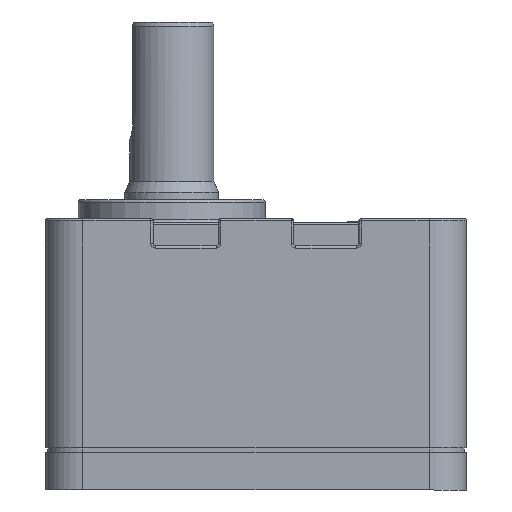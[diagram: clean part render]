
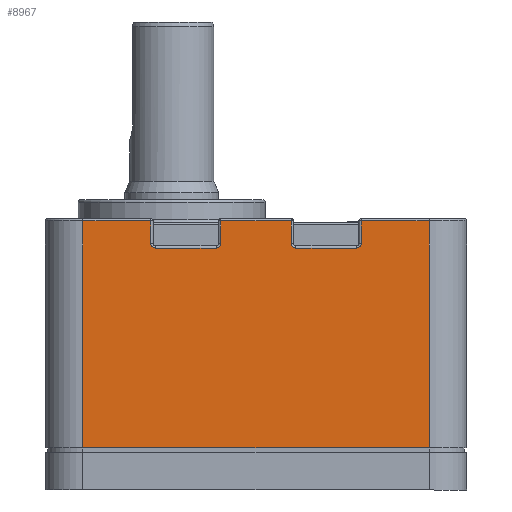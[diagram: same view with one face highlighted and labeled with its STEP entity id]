
A CAD part, left-side view. The second image highlights one B-rep face of the part: STEP entity #8967.
In plain terms, the highlighted planar face has unit normal (-1, 0, 0).
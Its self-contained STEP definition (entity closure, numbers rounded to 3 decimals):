
#8623=CARTESIAN_POINT('',(-90.,8.,34.113));
#8624=VERTEX_POINT('',#8623);
#8633=CARTESIAN_POINT('',(-90.,22.5,34.113));
#8634=VERTEX_POINT('',#8633);
#8642=CARTESIAN_POINT('',(-90.,22.5,34.113));
#8643=DIRECTION('',(0.0,-1.0,0.0));
#8644=VECTOR('',#8643,14.5);
#8645=LINE('',#8642,#8644);
#8646=EDGE_CURVE('',#8634,#8624,#8645,.T.);
#8837=CARTESIAN_POINT('',(-90.,90.,34.613));
#8838=DIRECTION('',(-1.0,0.0,0.0));
#8839=DIRECTION('',(0.0,0.0,-1.0));
#8840=AXIS2_PLACEMENT_3D('',#8837,#8838,#8839);
#8841=PLANE('',#8840);
#8842=ORIENTED_EDGE('',*,*,#8646,.F.);
#8843=CARTESIAN_POINT('',(-90.,22.5,29.313));
#8844=VERTEX_POINT('',#8843);
#8845=CARTESIAN_POINT('',(-90.,22.5,29.313));
#8846=DIRECTION('',(0.0,0.0,1.0));
#8847=VECTOR('',#8846,4.8);
#8848=LINE('',#8845,#8847);
#8849=EDGE_CURVE('',#8844,#8634,#8848,.T.);
#8850=ORIENTED_EDGE('',*,*,#8849,.F.);
#8851=CARTESIAN_POINT('',(-90.,23.5,28.313));
#8852=VERTEX_POINT('',#8851);
#8853=CARTESIAN_POINT('',(-90.,23.5,29.313));
#8854=DIRECTION('',(-1.0,0.,0.));
#8855=DIRECTION('',(0.,-0.707,-0.707));
#8856=AXIS2_PLACEMENT_3D('',#8853,#8854,#8855);
#8857=CIRCLE('',#8856,1.);
#8858=EDGE_CURVE('',#8852,#8844,#8857,.T.);
#8859=ORIENTED_EDGE('',*,*,#8858,.F.);
#8860=CARTESIAN_POINT('',(-90.,36.5,28.313));
#8861=VERTEX_POINT('',#8860);
#8862=CARTESIAN_POINT('',(-90.,36.5,28.313));
#8863=DIRECTION('',(0.0,-1.0,0.0));
#8864=VECTOR('',#8863,13.);
#8865=LINE('',#8862,#8864);
#8866=EDGE_CURVE('',#8861,#8852,#8865,.T.);
#8867=ORIENTED_EDGE('',*,*,#8866,.F.);
#8868=CARTESIAN_POINT('',(-90.,37.5,29.313));
#8869=VERTEX_POINT('',#8868);
#8870=CARTESIAN_POINT('',(-90.,36.5,29.313));
#8871=DIRECTION('',(-1.0,0.,0.));
#8872=DIRECTION('',(0.,0.707,-0.707));
#8873=AXIS2_PLACEMENT_3D('',#8870,#8871,#8872);
#8874=CIRCLE('',#8873,1.);
#8875=EDGE_CURVE('',#8869,#8861,#8874,.T.);
#8876=ORIENTED_EDGE('',*,*,#8875,.F.);
#8877=CARTESIAN_POINT('',(-90.,37.5,34.113));
#8878=VERTEX_POINT('',#8877);
#8879=CARTESIAN_POINT('',(-90.,37.5,34.113));
#8880=DIRECTION('',(0.0,0.0,-1.0));
#8881=VECTOR('',#8880,4.8);
#8882=LINE('',#8879,#8881);
#8883=EDGE_CURVE('',#8878,#8869,#8882,.T.);
#8884=ORIENTED_EDGE('',*,*,#8883,.F.);
#8885=CARTESIAN_POINT('',(-90.,52.5,34.113));
#8886=VERTEX_POINT('',#8885);
#8887=CARTESIAN_POINT('',(-90.,52.5,34.113));
#8888=DIRECTION('',(0.0,-1.0,0.0));
#8889=VECTOR('',#8888,15.0);
#8890=LINE('',#8887,#8889);
#8891=EDGE_CURVE('',#8886,#8878,#8890,.T.);
#8892=ORIENTED_EDGE('',*,*,#8891,.F.);
#8893=CARTESIAN_POINT('',(-90.,52.5,29.313));
#8894=VERTEX_POINT('',#8893);
#8895=CARTESIAN_POINT('',(-90.,52.5,29.313));
#8896=DIRECTION('',(0.0,0.0,1.0));
#8897=VECTOR('',#8896,4.8);
#8898=LINE('',#8895,#8897);
#8899=EDGE_CURVE('',#8894,#8886,#8898,.T.);
#8900=ORIENTED_EDGE('',*,*,#8899,.F.);
#8901=CARTESIAN_POINT('',(-90.,53.5,28.313));
#8902=VERTEX_POINT('',#8901);
#8903=CARTESIAN_POINT('',(-90.,53.5,29.313));
#8904=DIRECTION('',(-1.0,0.,0.));
#8905=DIRECTION('',(0.,-0.707,-0.707));
#8906=AXIS2_PLACEMENT_3D('',#8903,#8904,#8905);
#8907=CIRCLE('',#8906,1.);
#8908=EDGE_CURVE('',#8902,#8894,#8907,.T.);
#8909=ORIENTED_EDGE('',*,*,#8908,.F.);
#8910=CARTESIAN_POINT('',(-90.,66.5,28.313));
#8911=VERTEX_POINT('',#8910);
#8912=CARTESIAN_POINT('',(-90.,66.5,28.313));
#8913=DIRECTION('',(0.0,-1.0,0.0));
#8914=VECTOR('',#8913,13.0);
#8915=LINE('',#8912,#8914);
#8916=EDGE_CURVE('',#8911,#8902,#8915,.T.);
#8917=ORIENTED_EDGE('',*,*,#8916,.F.);
#8918=CARTESIAN_POINT('',(-90.,67.5,29.313));
#8919=VERTEX_POINT('',#8918);
#8920=CARTESIAN_POINT('',(-90.,66.5,29.313));
#8921=DIRECTION('',(-1.0,0.,0.));
#8922=DIRECTION('',(0.,0.707,-0.707));
#8923=AXIS2_PLACEMENT_3D('',#8920,#8921,#8922);
#8924=CIRCLE('',#8923,1.);
#8925=EDGE_CURVE('',#8919,#8911,#8924,.T.);
#8926=ORIENTED_EDGE('',*,*,#8925,.F.);
#8927=CARTESIAN_POINT('',(-90.,67.5,34.113));
#8928=VERTEX_POINT('',#8927);
#8929=CARTESIAN_POINT('',(-90.,67.5,34.113));
#8930=DIRECTION('',(0.0,0.0,-1.0));
#8931=VECTOR('',#8930,4.8);
#8932=LINE('',#8929,#8931);
#8933=EDGE_CURVE('',#8928,#8919,#8932,.T.);
#8934=ORIENTED_EDGE('',*,*,#8933,.F.);
#8935=CARTESIAN_POINT('',(-90.,82.,34.113));
#8936=VERTEX_POINT('',#8935);
#8937=CARTESIAN_POINT('',(-90.,82.,34.113));
#8938=DIRECTION('',(0.0,-1.0,0.0));
#8939=VECTOR('',#8938,14.5);
#8940=LINE('',#8937,#8939);
#8941=EDGE_CURVE('',#8936,#8928,#8940,.T.);
#8942=ORIENTED_EDGE('',*,*,#8941,.F.);
#8943=CARTESIAN_POINT('',(-90.,82.,-14.387));
#8944=VERTEX_POINT('',#8943);
#8945=CARTESIAN_POINT('',(-90.,82.,-14.387));
#8946=DIRECTION('',(0.0,0.0,1.0));
#8947=VECTOR('',#8946,48.5);
#8948=LINE('',#8945,#8947);
#8949=EDGE_CURVE('',#8944,#8936,#8948,.T.);
#8950=ORIENTED_EDGE('',*,*,#8949,.F.);
#8951=CARTESIAN_POINT('',(-90.,8.,-14.387));
#8952=VERTEX_POINT('',#8951);
#8953=CARTESIAN_POINT('',(-90.,82.,-14.387));
#8954=DIRECTION('',(0.0,-1.0,0.0));
#8955=VECTOR('',#8954,74.);
#8956=LINE('',#8953,#8955);
#8957=EDGE_CURVE('',#8944,#8952,#8956,.T.);
#8958=ORIENTED_EDGE('',*,*,#8957,.T.);
#8959=CARTESIAN_POINT('',(-90.,8.,34.113));
#8960=DIRECTION('',(0.0,0.0,-1.0));
#8961=VECTOR('',#8960,48.5);
#8962=LINE('',#8959,#8961);
#8963=EDGE_CURVE('',#8624,#8952,#8962,.T.);
#8964=ORIENTED_EDGE('',*,*,#8963,.F.);
#8965=EDGE_LOOP('',(#8842,#8850,#8859,#8867,#8876,#8884,#8892,#8900,#8909,#8917,#8926,#8934,#8942,#8950,#8958,#8964));
#8966=FACE_OUTER_BOUND('',#8965,.T.);
#8967=ADVANCED_FACE('',(#8966),#8841,.T.);
